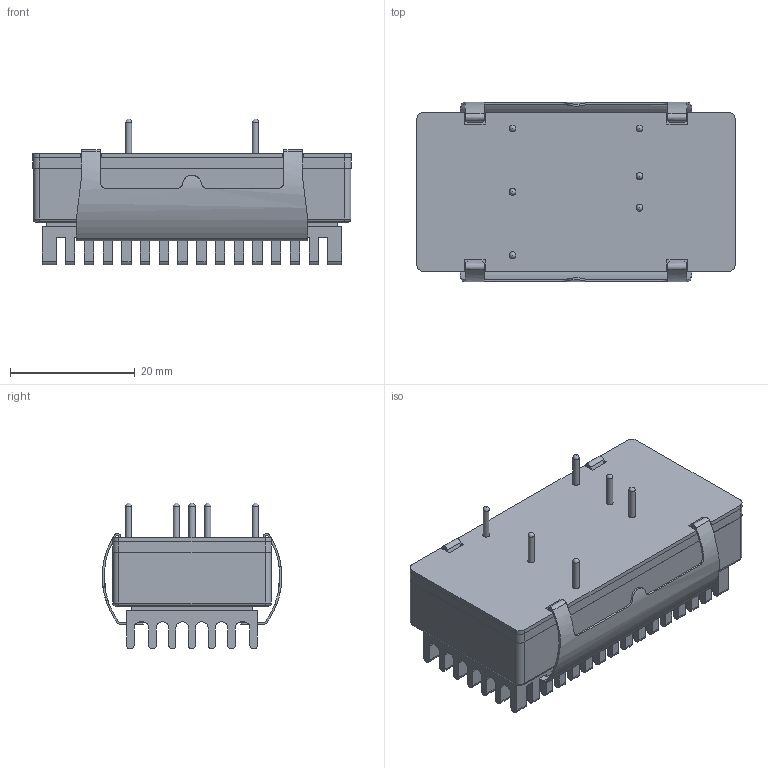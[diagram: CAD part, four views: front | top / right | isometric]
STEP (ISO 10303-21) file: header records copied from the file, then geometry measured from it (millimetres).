
FILE_DESCRIPTION(/* description */ (''),/* implementation_level */ '2;1');
FILE_NAME(/* name */ 'C:\Users\Calliope\Documents\Inventor\專案部\MKWI50(高志明)\3D尺寸外觀\型錄用-STEP檔\with Heatsink﹝MKZI10+MKZI20﹞.stp',/* time_stamp */ '2016-09-27T14:30:53+08:00',/* author */ ('Calliope'),/* organization */ (''),/* preprocessor_version */ 'ST-DEVELOPER v15.6',/* originating_system */ 'Autodesk Inventor 2015',/* authorisation */ '');
FILE_SCHEMA (('AUTOMOTIVE_DESIGN { 1 0 10303 214 3 1 1 }'));
Length unit declared in the file: millimetre
Products named in the file (1): with Heatsink﹝MKZI10+MKZI20﹞(\X2\5305
819C\X0\)
Bounding box: 50.95 x 28.74 x 23.35 mm (x, y, z)
Volume: 6800.4 mm3; surface area: 13250.3 mm2
Topology: 1 solids, 1 shells, 963 faces, 2812 edges, 1810 vertices
Faces by surface type: plane 551, cylinder 398, sphere 10, bspline 4
Full cylindrical faces by diameter (mm): 1 x6, 1.1 x6
Entity records: 32070 total; most frequent: CARTESIAN_POINT 5820, DIRECTION 5592, ORIENTED_EDGE 5576, EDGE_CURVE 2784, AXIS2_PLACEMENT_3D 1876, LINE 1840, VECTOR 1840, VERTEX_POINT 1804
